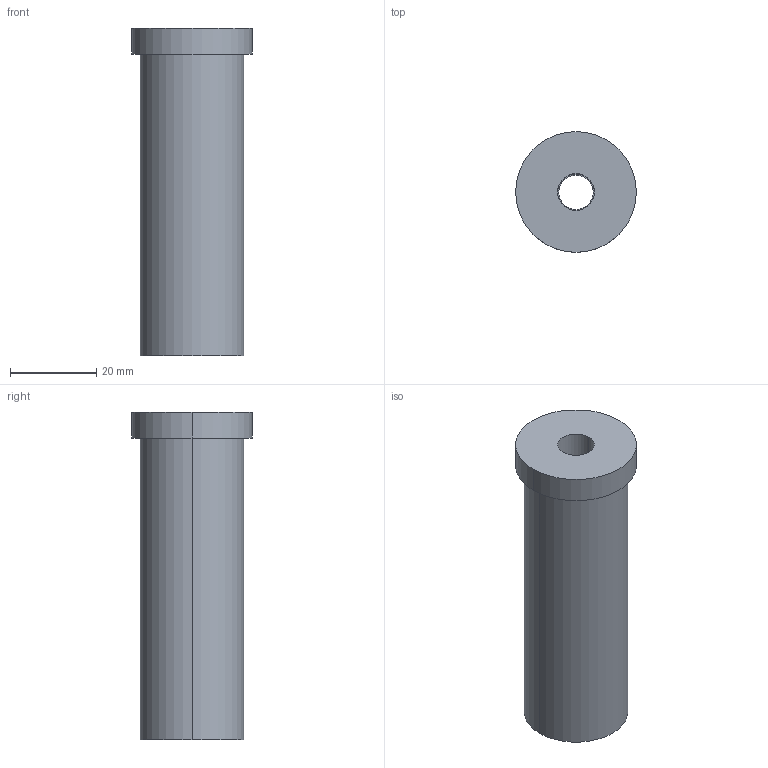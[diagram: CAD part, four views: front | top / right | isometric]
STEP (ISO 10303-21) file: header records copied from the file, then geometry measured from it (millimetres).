
FILE_DESCRIPTION (( 'STEP AP214' ), '1' );
FILE_NAME ('BR53-24x76.STEP', '2020-01-30T11:34:04', ( 'August' ), ( '' ), 'SwSTEP 2.0', 'SolidWorks 2018', '' );
FILE_SCHEMA (( 'AUTOMOTIVE_DESIGN' ));
Length unit declared in the file: millimetre
Products named in the file (1): BR53-24x76
Bounding box: 28 x 28 x 76 mm (x, y, z)
Volume: 31099.9 mm3; surface area: 8972.2 mm2
Topology: 1 solids, 1 shells, 17 faces, 34 edges, 22 vertices
Faces by surface type: cylinder 10, plane 5, cone 2
Entity records: 492 total; most frequent: DIRECTION 92, CARTESIAN_POINT 74, ORIENTED_EDGE 68, AXIS2_PLACEMENT_3D 40, EDGE_CURVE 34, CIRCLE 22, VERTEX_POINT 22, EDGE_LOOP 22
